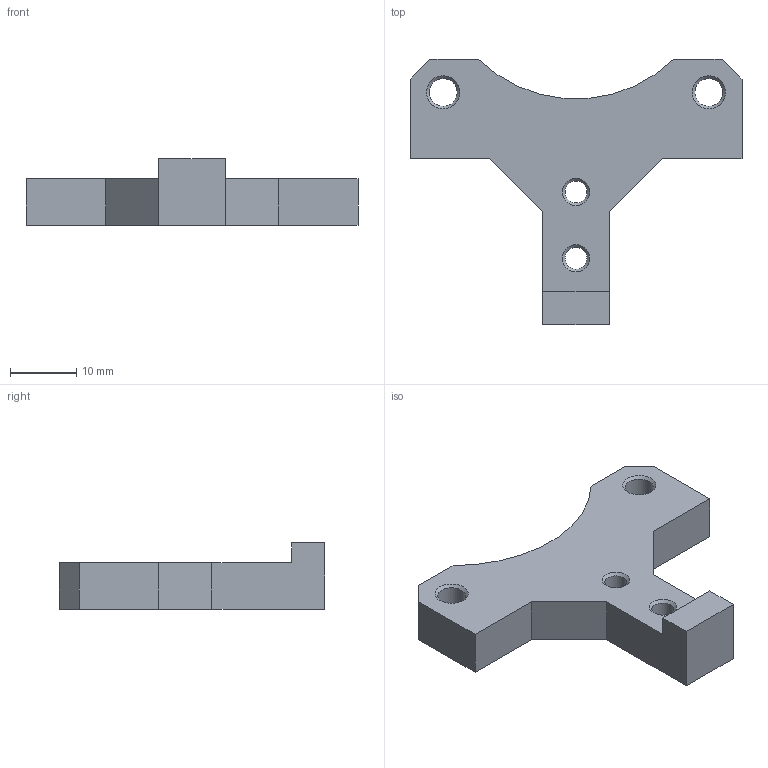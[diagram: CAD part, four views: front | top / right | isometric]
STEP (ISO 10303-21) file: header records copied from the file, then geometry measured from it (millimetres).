
FILE_DESCRIPTION(/* description */ (''),/* implementation_level */ '2;1');
FILE_NAME(/* name */ '2020TOMO-CRIMP.05.stp',/* time_stamp */ '2021-01-20T14:49:42+01:00',/* author */ (''),/* organization */ (''),/* preprocessor_version */ 'ST-DEVELOPER v16.7',/* originating_system */ 'SIEMENS PLM Software NX 1892',/* authorisation */ '');
FILE_SCHEMA (('AUTOMOTIVE_DESIGN { 1 0 10303 214 3 1 1 1 }'));
Length unit declared in the file: millimetre
Products named in the file (1): turc131041948isc
Bounding box: 50 x 40 x 10 mm (x, y, z)
Volume: 6243.7 mm3; surface area: 3415.9 mm2
Topology: 1 solids, 1 shells, 34 faces, 82 edges, 52 vertices
Faces by surface type: plane 19, cone 8, cylinder 7
Full cylindrical faces by diameter (mm): 3.3 x2, 4.2 x2, 6 x2
Entity records: 962 total; most frequent: DIRECTION 160, CARTESIAN_POINT 155, ORIENTED_EDGE 136, EDGE_CURVE 68, EDGE_LOOP 58, AXIS2_PLACEMENT_3D 57, VERTEX_POINT 52, LINE 46
